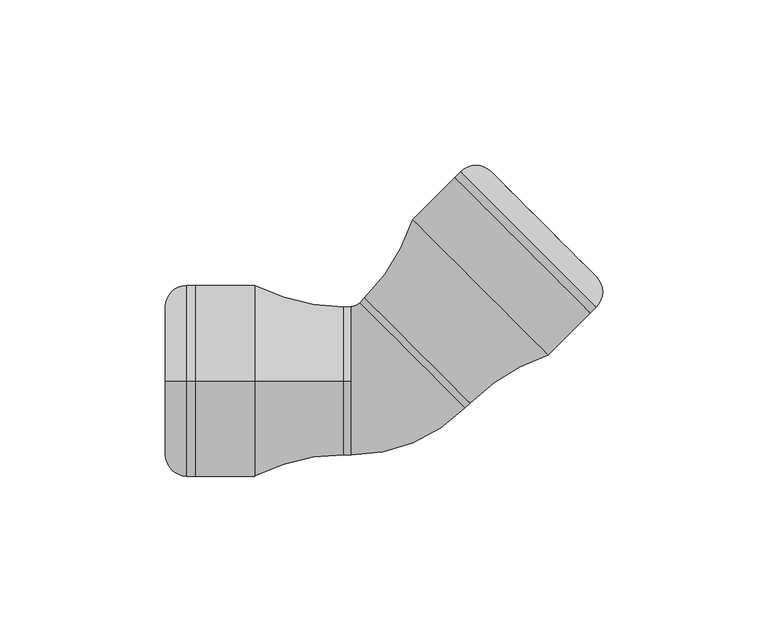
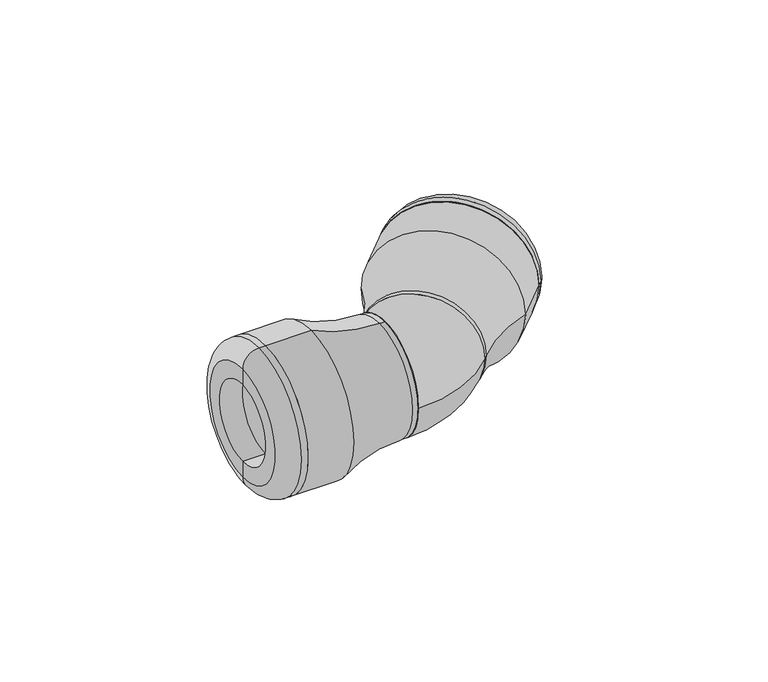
"""IFC4 building model written with IfcOpenShell, lengths in millimetres: pipe fitting geometry, Plumbing_Pipe-Fittings_Plasson_Elbow-45_1006 : Plumbing_Pipe-Fittings_Plasson_Elbow-45_1006."""

from ifc_helpers import new_model, si_unit, point, frame, origin, place, context, project, spatial, polyline, circle_curve, ellipse_curve, trimmed, source, transform, mapped, element, save
from ifc_brep_helpers import plane_surface, cylinder_surface, revolved_surface, advanced_brep


def pipe_fitting_c75a0118(model_context):
    return source(origin(), model_context, "Body", "AdvancedBrep", [
        advanced_brep(
        [(-10.810974, -22.5, 0.0), (-10.810974, 22.5, 0.0), (23.5544156, -8.2653896, 0.0), (-8.2653896, 23.5544156, 0.0)],
        [
            (0, 1, circle_curve(frame((-10.810974, 0.0, 0.0), z_axis=(-1.0, 0.0, 0.0), x_axis=(0.0, 1.0, 0.0)), 22.5)),
            (1, 0, circle_curve(frame((-10.810974, 0.0, 0.0), z_axis=(-1.0, 0.0, 0.0), x_axis=(0.0, 1.0, 0.0)), 22.5)),
            (2, 3, circle_curve(frame((7.644513, 7.644513, 0.0), z_axis=(0.7071067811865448, 0.7071067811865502, 0.0), x_axis=(-0.7071067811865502, 0.7071067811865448, 0.0)), 22.5)),
            (3, 2, circle_curve(frame((7.644513, 7.644513, 0.0), z_axis=(0.7071067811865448, 0.7071067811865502, 0.0), x_axis=(-0.7071067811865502, 0.7071067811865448, 0.0)), 22.5)),
            (3, 1, circle_curve(frame((-10.810974, 26.1, 0.0), z_axis=(0.0, 0.0, -1.0), x_axis=(0.0, -1.0, 0.0)), 3.6)),
            (0, 2, circle_curve(frame((-10.810974, 26.1, 0.0), z_axis=(0.0, 0.0, 1.0), x_axis=(0.0, -1.0, 0.0)), 48.6)),
        ],
        [
            plane_surface(frame((-10.810974, 0.0, 0.0), z_axis=(-1.0, 0.0, 0.0), x_axis=(0.0, 0.0, 1.0))),
            plane_surface(frame((7.644513, 7.644513, 0.0), z_axis=(0.7071067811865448, 0.7071067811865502, 0.0), x_axis=(0.0, 0.0, 1.0))),
            revolved_surface(trimmed(ellipse_curve(frame((-10.810974, 0.0, 0.0), z_axis=(-1.0, 0.0, 0.0), x_axis=(0.0, 1.0, 0.0)), 22.5, 22.5), [point((-10.810974, -22.5, 0.0))], [point((-10.810974, 22.5, 0.0))], True, "CARTESIAN"), (-10.810974, 26.1, 0.0), (0.0, 0.0, 1.0)),
            revolved_surface(trimmed(ellipse_curve(frame((-10.810974, 0.0, 0.0), z_axis=(-1.0, 0.0, 0.0), x_axis=(0.0, 1.0, 0.0)), 22.5, 22.5), [point((-10.810974, 22.5, 0.0))], [point((-10.810974, -22.5, 0.0))], True, "CARTESIAN"), (-10.810974, 26.1, 0.0), (0.0, 0.0, 1.0)),
        ],
        [
            (0, [[1, 2]]),
            (1, [[3, 4]]),
            (2, [[5, -1, 6, -4]]),
            (3, [[-6, -2, -5, -3]]),
        ],
    ),
        advanced_brep(
        [(63.2860569, 31.4662518, 0.0), (31.4662518, 63.2860569, 0.0), (36.0624458, 58.6898628, 0.0), (58.6898628, 36.0624458, 0.0), (63.2860569, 22.2738636, 0.0), (22.2738636, 63.2860569, 0.0), (61.51829, 20.5060967, 0.0), (20.5060967, 61.51829, 0.0), (52.3259018, 29.6984848, 0.0), (29.6984848, 52.3259018, 0.0)],
        [
            (0, 1, circle_curve(frame((47.3761543, 47.3761543, 0.0), z_axis=(0.7071067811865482, 0.7071067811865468, 0.0), x_axis=(-0.7071067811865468, 0.7071067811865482, 0.0)), 22.5)),
            (1, 2),
            (2, 3, circle_curve(frame((47.3761543, 47.3761543, 0.0), z_axis=(-0.7071067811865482, -0.7071067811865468, 0.0), x_axis=(-0.7071067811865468, 0.7071067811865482, 0.0)), 16.0)),
            (3, 0),
            (1, 0, circle_curve(frame((47.3761543, 47.3761543, 0.0), z_axis=(0.7071067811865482, 0.7071067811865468, 0.0), x_axis=(-0.7071067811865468, 0.7071067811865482, 0.0)), 22.5)),
            (3, 2, circle_curve(frame((47.3761543, 47.3761543, 0.0), z_axis=(-0.7071067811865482, -0.7071067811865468, 0.0), x_axis=(-0.7071067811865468, 0.7071067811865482, 0.0)), 16.0)),
            (4, 5, circle_curve(frame((42.7799603, 42.7799603, 0.0), z_axis=(0.7071067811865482, 0.7071067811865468, 0.0), x_axis=(-0.7071067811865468, 0.7071067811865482, 0.0)), 29.0)),
            (5, 1, circle_curve(frame((26.8700577, 58.6898628, 0.0), z_axis=(0.0, 0.0, -1.0), x_axis=(0.7071067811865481, 0.7071067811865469, 0.0)), 6.5)),
            (0, 4, circle_curve(frame((58.6898628, 26.8700577, 0.0), z_axis=(0.0, 0.0, -1.0), x_axis=(0.7071067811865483, 0.7071067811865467, 0.0)), 6.5)),
            (5, 4, circle_curve(frame((42.7799603, 42.7799603, 0.0), z_axis=(0.7071067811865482, 0.7071067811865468, 0.0), x_axis=(-0.7071067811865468, 0.7071067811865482, 0.0)), 29.0)),
            (6, 7, circle_curve(frame((41.0121933, 41.0121933, 0.0), z_axis=(0.7071067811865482, 0.7071067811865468, 0.0), x_axis=(-0.7071067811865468, 0.7071067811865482, 0.0)), 29.0)),
            (7, 5),
            (4, 6),
            (7, 6, circle_curve(frame((41.0121933, 41.0121933, 0.0), z_axis=(0.7071067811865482, 0.7071067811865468, 0.0), x_axis=(-0.7071067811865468, 0.7071067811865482, 0.0)), 29.0)),
            (8, 9, circle_curve(frame((41.0121933, 41.0121933, 0.0), z_axis=(0.7071067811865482, 0.7071067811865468, 0.0), x_axis=(-0.7071067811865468, 0.7071067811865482, 0.0)), 16.0)),
            (9, 7),
            (6, 8),
            (9, 8, circle_curve(frame((41.0121933, 41.0121933, 0.0), z_axis=(0.7071067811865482, 0.7071067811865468, 0.0), x_axis=(-0.7071067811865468, 0.7071067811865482, 0.0)), 16.0)),
            (2, 9),
            (8, 3),
        ],
        [
            plane_surface(frame((47.3761543, 47.3761543, 0.0), z_axis=(0.7071067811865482, 0.7071067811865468, 0.0), x_axis=(-0.7071067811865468, 0.7071067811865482, 0.0))),
            revolved_surface(trimmed(ellipse_curve(frame((26.8700577, 58.6898628, 0.0), z_axis=(0.0, 0.0, 1.0), x_axis=(0.7071067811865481, 0.7071067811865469, 0.0)), 6.5, 6.5), [point((31.4662518, 63.2860569, 0.0))], [point((22.2738636, 63.2860569, 0.0))], True, "CARTESIAN"), (24.2227391, 24.2227391, 0.0), (-0.7071067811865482, -0.7071067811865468, 0.0)),
            cylinder_surface(frame((24.2227391, 24.2227391, 0.0), z_axis=(-0.7071067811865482, -0.7071067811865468, 0.0), x_axis=(-0.7071067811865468, 0.7071067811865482, 0.0)), 29.0),
            plane_surface(frame((41.0121933, 41.0121933, 0.0), z_axis=(-0.7071067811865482, -0.7071067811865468, 0.0), x_axis=(-0.7071067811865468, 0.7071067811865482, 0.0))),
            revolved_surface(polyline([(29.698484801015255, 52.325901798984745, 0.0), (36.062445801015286, 58.68986279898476, 0.0)]), (24.2227391, 24.2227391, 0.0), (-0.7071067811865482, -0.7071067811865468, 0.0)),
        ],
        [
            (0, [[1, 2, 3, 4]]),
            (0, [[5, -4, 6, -2]]),
            (1, [[7, 8, -1, 9]]),
            (1, [[10, -9, -5, -8]]),
            (2, [[11, 12, -7, 13]]),
            (2, [[14, -13, -10, -12]]),
            (3, [[15, 16, -11, 17]]),
            (3, [[18, -17, -14, -16]]),
            (4, [[-3, 19, -15, 20]]),
            (4, [[-6, -20, -18, -19]]),
        ],
    ),
        advanced_brep(
        [(48.7903679, 7.7781746, 0.0), (7.7781746, 48.7903679, 0.0), (20.5060967, 61.51829, 0.0), (61.51829, 20.5060967, 0.0), (20.5060967, -2.1213203, 0.0), (-2.1213203, 20.5060967, 0.0), (9.1923882, 9.1923882, 0.0), (52.3259018, 29.6984848, 0.0), (29.6984848, 52.3259018, 0.0), (25.1022907, -6.7175144, 0.0), (-6.7175144, 25.1022907, 0.0), (23.5544156, -8.2653896, 0.0), (-8.2653896, 23.5544156, 0.0), (7.644513, 7.644513, 0.0)],
        [
            (0, 1, circle_curve(frame((28.2842712, 28.2842712, 0.0), z_axis=(0.7071067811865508, 0.7071067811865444, 0.0), x_axis=(-0.7071067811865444, 0.7071067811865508, 0.0)), 29.0)),
            (1, 2),
            (2, 3, circle_curve(frame((41.0121933, 41.0121933, 0.0), z_axis=(-0.7071067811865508, -0.7071067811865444, 0.0), x_axis=(-0.7071067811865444, 0.7071067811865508, 0.0)), 29.0)),
            (3, 0),
            (1, 0, circle_curve(frame((28.2842712, 28.2842712, 0.0), z_axis=(0.7071067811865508, 0.7071067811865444, 0.0), x_axis=(-0.7071067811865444, 0.7071067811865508, 0.0)), 29.0)),
            (3, 2, circle_curve(frame((41.0121933, 41.0121933, 0.0), z_axis=(-0.7071067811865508, -0.7071067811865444, 0.0), x_axis=(-0.7071067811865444, 0.7071067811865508, 0.0)), 29.0)),
            (4, 5, circle_curve(frame((9.1923882, 9.1923882, 0.0), z_axis=(0.7071067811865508, 0.7071067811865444, 0.0), x_axis=(-0.7071067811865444, 0.7071067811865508, 0.0)), 16.0)),
            (5, 6),
            (6, 4),
            (5, 4, circle_curve(frame((9.1923882, 9.1923882, 0.0), z_axis=(0.7071067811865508, 0.7071067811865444, 0.0), x_axis=(-0.7071067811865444, 0.7071067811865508, 0.0)), 16.0)),
            (7, 8, circle_curve(frame((41.0121933, 41.0121933, 0.0), z_axis=(0.7071067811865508, 0.7071067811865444, 0.0), x_axis=(-0.7071067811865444, 0.7071067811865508, 0.0)), 16.0)),
            (8, 5),
            (4, 7),
            (8, 7, circle_curve(frame((41.0121933, 41.0121933, 0.0), z_axis=(0.7071067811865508, 0.7071067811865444, 0.0), x_axis=(-0.7071067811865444, 0.7071067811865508, 0.0)), 16.0)),
            (2, 8),
            (7, 3),
            (9, 10, circle_curve(frame((9.1923882, 9.1923882, 0.0), z_axis=(0.7071067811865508, 0.7071067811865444, 0.0), x_axis=(-0.7071067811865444, 0.7071067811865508, 0.0)), 22.5)),
            (10, 1, circle_curve(frame((-48.667984, 67.0527603, 0.0), z_axis=(0.0, 0.0, 1.0), x_axis=(0.7071067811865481, 0.707106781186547, 0.0)), 59.3269231)),
            (0, 9, circle_curve(frame((67.0527603, -48.667984, 0.0), z_axis=(0.0, 0.0, 1.0), x_axis=(0.7071067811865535, 0.7071067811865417, 0.0)), 59.3269231)),
            (10, 9, circle_curve(frame((9.1923882, 9.1923882, 0.0), z_axis=(0.7071067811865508, 0.7071067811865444, 0.0), x_axis=(-0.7071067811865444, 0.7071067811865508, 0.0)), 22.5)),
            (11, 12, circle_curve(frame((7.644513, 7.644513, 0.0), z_axis=(0.7071067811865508, 0.7071067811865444, 0.0), x_axis=(-0.7071067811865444, 0.7071067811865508, 0.0)), 22.5)),
            (12, 10),
            (9, 11),
            (12, 11, circle_curve(frame((7.644513, 7.644513, 0.0), z_axis=(0.7071067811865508, 0.7071067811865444, 0.0), x_axis=(-0.7071067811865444, 0.7071067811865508, 0.0)), 22.5)),
            (13, 12),
            (11, 13),
        ],
        [
            cylinder_surface(frame((25.6775441, 25.6775441, 0.0), z_axis=(-0.7071067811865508, -0.7071067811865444, 0.0), x_axis=(-0.7071067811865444, 0.7071067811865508, 0.0)), 29.0),
            plane_surface(frame((9.1923882, 9.1923882, 0.0), z_axis=(0.7071067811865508, 0.7071067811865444, 0.0), x_axis=(-0.7071067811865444, 0.7071067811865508, 0.0))),
            revolved_surface(polyline([(-2.1213202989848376, 20.506096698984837, 0.0), (29.69848480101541, 52.325901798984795, 0.0)]), (25.6775441, 25.6775441, 0.0), (-0.7071067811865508, -0.7071067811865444, 0.0)),
            plane_surface(frame((41.0121933, 41.0121933, 0.0), z_axis=(0.7071067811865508, 0.7071067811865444, 0.0), x_axis=(-0.7071067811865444, 0.7071067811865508, 0.0))),
            revolved_surface(trimmed(ellipse_curve(frame((-48.667984, 67.0527603, 0.0), z_axis=(0.0, 0.0, -1.0), x_axis=(0.7071067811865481, 0.707106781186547, 0.0)), 59.3269231, 59.3269231), [point((7.7781746, 48.7903679, 0.0))], [point((-6.7175144, 25.1022907, 0.0))], True, "CARTESIAN"), (25.6775441, 25.6775441, 0.0), (-0.7071067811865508, -0.7071067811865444, 0.0)),
            cylinder_surface(frame((25.6775441, 25.6775441, 0.0), z_axis=(-0.7071067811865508, -0.7071067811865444, 0.0), x_axis=(-0.7071067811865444, 0.7071067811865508, 0.0)), 22.5),
            plane_surface(frame((7.644513, 7.644513, 0.0), z_axis=(-0.7071067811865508, -0.7071067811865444, 0.0), x_axis=(-0.7071067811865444, 0.7071067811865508, 0.0))),
        ],
        [
            (0, [[1, 2, 3, 4]]),
            (0, [[5, -4, 6, -2]]),
            (1, [[7, 8, 9]]),
            (1, [[10, -9, -8]]),
            (2, [[11, 12, -7, 13]]),
            (2, [[14, -13, -10, -12]]),
            (3, [[-3, 15, -11, 16]]),
            (3, [[-6, -16, -14, -15]]),
            (4, [[17, 18, -1, 19]]),
            (4, [[20, -19, -5, -18]]),
            (5, [[21, 22, -17, 23]]),
            (5, [[24, -23, -20, -22]]),
            (6, [[25, -21, 26]]),
            (6, [[-26, -24, -25]]),
        ],
    ),
        advanced_brep(
        [(-58.0, 0.0, -29.0), (-58.0, 0.0, 29.0), (-58.0, 0.0, 16.0), (-58.0, 0.0, -16.0), (-60.5, 0.0, -29.0), (-60.5, 0.0, 29.0), (-67.0, 0.0, -22.5), (-67.0, 0.0, 22.5), (-67.0, 0.0, -16.0), (-67.0, 0.0, 16.0)],
        [
            (0, 1, circle_curve(frame((-58.0, 0.0, 0.0), z_axis=(1.0, 0.0, 0.0), x_axis=(0.0, 0.0, 1.0)), 29.0)),
            (1, 2),
            (2, 3, circle_curve(frame((-58.0, 0.0, 0.0), z_axis=(-1.0, 0.0, 0.0), x_axis=(0.0, 0.0, 1.0)), 16.0)),
            (3, 0),
            (1, 0, circle_curve(frame((-58.0, 0.0, 0.0), z_axis=(1.0, 0.0, 0.0), x_axis=(0.0, 0.0, 1.0)), 29.0)),
            (3, 2, circle_curve(frame((-58.0, 0.0, 0.0), z_axis=(-1.0, 0.0, 0.0), x_axis=(0.0, 0.0, 1.0)), 16.0)),
            (4, 5, circle_curve(frame((-60.5, 0.0, 0.0), z_axis=(1.0, 0.0, 0.0), x_axis=(0.0, 0.0, 1.0)), 29.0)),
            (5, 1),
            (0, 4),
            (5, 4, circle_curve(frame((-60.5, 0.0, 0.0), z_axis=(1.0, 0.0, 0.0), x_axis=(0.0, 0.0, 1.0)), 29.0)),
            (6, 7, circle_curve(frame((-67.0, 0.0, 0.0), z_axis=(1.0, 0.0, 0.0), x_axis=(0.0, 0.0, 1.0)), 22.5)),
            (7, 5, circle_curve(frame((-60.5, 0.0, 22.5), z_axis=(0.0, 1.0, 0.0), x_axis=(1.0, 0.0, 0.0)), 6.5)),
            (4, 6, circle_curve(frame((-60.5, 0.0, -22.5), z_axis=(0.0, 1.0, 0.0), x_axis=(1.0, 0.0, 0.0)), 6.5)),
            (7, 6, circle_curve(frame((-67.0, 0.0, 0.0), z_axis=(1.0, 0.0, 0.0), x_axis=(0.0, 0.0, 1.0)), 22.5)),
            (8, 9, circle_curve(frame((-67.0, 0.0, 0.0), z_axis=(1.0, 0.0, 0.0), x_axis=(0.0, 0.0, 1.0)), 16.0)),
            (9, 7),
            (6, 8),
            (9, 8, circle_curve(frame((-67.0, 0.0, 0.0), z_axis=(1.0, 0.0, 0.0), x_axis=(0.0, 0.0, 1.0)), 16.0)),
            (2, 9),
            (8, 3),
        ],
        [
            plane_surface(frame((-58.0, 0.0, 0.0), z_axis=(1.0, 0.0, 0.0), x_axis=(0.0, 0.0, 1.0))),
            cylinder_surface(frame((-72.0, 0.0, 0.0), z_axis=(-1.0, 0.0, 0.0), x_axis=(0.0, 0.0, 1.0)), 29.0),
            revolved_surface(trimmed(ellipse_curve(frame((-60.5, 0.0, 22.5), z_axis=(0.0, -1.0, 0.0), x_axis=(1.0, 0.0, 0.0)), 6.5, 6.5), [point((-60.5, 0.0, 29.0))], [point((-67.0, 0.0, 22.5))], True, "CARTESIAN"), (-72.0, 0.0, 0.0), (-1.0, 0.0, 0.0)),
            plane_surface(frame((-67.0, 0.0, 0.0), z_axis=(-1.0, 0.0, 0.0), x_axis=(0.0, 0.0, 1.0))),
            revolved_surface(polyline([(-67.0, 0.0, 16.0), (-58.0, 0.0, 16.0)]), (-72.0, 0.0, 0.0), (-1.0, 0.0, 0.0)),
        ],
        [
            (0, [[1, 2, 3, 4]]),
            (0, [[5, -4, 6, -2]]),
            (1, [[7, 8, -1, 9]]),
            (1, [[10, -9, -5, -8]]),
            (2, [[11, 12, -7, 13]]),
            (2, [[14, -13, -10, -12]]),
            (3, [[15, 16, -11, 17]]),
            (3, [[18, -17, -14, -16]]),
            (4, [[-3, 19, -15, 20]]),
            (4, [[-6, -20, -18, -19]]),
        ],
    ),
        advanced_brep(
        [(-58.0, 0.0, -16.0), (-58.0, 0.0, 16.0), (-58.0, 0.0, 29.0), (-58.0, 0.0, -29.0), (-13.0, 0.0, -16.0), (-13.0, 0.0, 16.0), (-13.0, 0.0, 0.0), (-40.0, 0.0, 29.0), (-40.0, 0.0, -29.0), (-10.810974, 0.0, -22.5), (-10.810974, 0.0, 22.5), (-10.810974, 0.0, 0.0), (-13.0, 0.0, -22.5), (-13.0, 0.0, 22.5)],
        [
            (0, 1, circle_curve(frame((-58.0, 0.0, 0.0), z_axis=(1.0, 0.0, 0.0), x_axis=(0.0, 0.0, 1.0)), 16.0)),
            (1, 2),
            (2, 3, circle_curve(frame((-58.0, 0.0, 0.0), z_axis=(-1.0, 0.0, 0.0), x_axis=(0.0, 0.0, 1.0)), 29.0)),
            (3, 0),
            (1, 0, circle_curve(frame((-58.0, 0.0, 0.0), z_axis=(1.0, 0.0, 0.0), x_axis=(0.0, 0.0, 1.0)), 16.0)),
            (3, 2, circle_curve(frame((-58.0, 0.0, 0.0), z_axis=(-1.0, 0.0, 0.0), x_axis=(0.0, 0.0, 1.0)), 29.0)),
            (4, 5, circle_curve(frame((-13.0, 0.0, 0.0), z_axis=(1.0, 0.0, 0.0), x_axis=(0.0, 0.0, 1.0)), 16.0)),
            (5, 1),
            (0, 4),
            (5, 4, circle_curve(frame((-13.0, 0.0, 0.0), z_axis=(1.0, 0.0, 0.0), x_axis=(0.0, 0.0, 1.0)), 16.0)),
            (6, 5),
            (4, 6),
            (2, 7),
            (7, 8, circle_curve(frame((-40.0, 0.0, 0.0), z_axis=(-1.0, 0.0, 0.0), x_axis=(0.0, 0.0, 1.0)), 29.0)),
            (8, 3),
            (8, 7, circle_curve(frame((-40.0, 0.0, 0.0), z_axis=(-1.0, 0.0, 0.0), x_axis=(0.0, 0.0, 1.0)), 29.0)),
            (9, 10, circle_curve(frame((-10.810974, 0.0, 0.0), z_axis=(1.0, 0.0, 0.0), x_axis=(0.0, 0.0, 1.0)), 22.5)),
            (10, 11),
            (11, 9),
            (10, 9, circle_curve(frame((-10.810974, 0.0, 0.0), z_axis=(1.0, 0.0, 0.0), x_axis=(0.0, 0.0, 1.0)), 22.5)),
            (12, 13, circle_curve(frame((-13.0, 0.0, 0.0), z_axis=(1.0, 0.0, 0.0), x_axis=(0.0, 0.0, 1.0)), 22.5)),
            (13, 10),
            (9, 12),
            (13, 12, circle_curve(frame((-13.0, 0.0, 0.0), z_axis=(1.0, 0.0, 0.0), x_axis=(0.0, 0.0, 1.0)), 22.5)),
            (7, 13, circle_curve(frame((-13.0, 0.0, 81.8269231), z_axis=(0.0, -1.0, 0.0), x_axis=(1.0, 0.0, 0.0)), 59.3269231)),
            (12, 8, circle_curve(frame((-13.0, 0.0, -81.8269231), z_axis=(0.0, -1.0, 0.0), x_axis=(1.0, 0.0, 0.0)), 59.3269231)),
        ],
        [
            plane_surface(frame((-58.0, 0.0, 0.0), z_axis=(-1.0, 0.0, 0.0), x_axis=(0.0, 0.0, 1.0))),
            revolved_surface(polyline([(-58.0, 0.0, 16.0), (-13.0, 0.0, 16.0)]), (-58.0, 0.0, 0.0), (-1.0, 0.0, 0.0)),
            plane_surface(frame((-13.0, 0.0, 0.0), z_axis=(-1.0, 0.0, 0.0), x_axis=(0.0, 0.0, 1.0))),
            cylinder_surface(frame((-58.0, 0.0, 0.0), z_axis=(-1.0, 0.0, 0.0), x_axis=(0.0, 0.0, 1.0)), 29.0),
            plane_surface(frame((-10.810974, 0.0, 0.0), z_axis=(1.0, 0.0, 0.0), x_axis=(0.0, 0.0, 1.0))),
            cylinder_surface(frame((-58.0, 0.0, 0.0), z_axis=(-1.0, 0.0, 0.0), x_axis=(0.0, 0.0, 1.0)), 22.5),
            revolved_surface(trimmed(ellipse_curve(frame((-13.0, 0.0, 81.8269231), z_axis=(0.0, 1.0, 0.0), x_axis=(1.0, 0.0, 0.0)), 59.3269231, 59.3269231), [point((-13.0, 0.0, 22.5))], [point((-40.0, 0.0, 29.0))], True, "CARTESIAN"), (-58.0, 0.0, 0.0), (-1.0, 0.0, 0.0)),
        ],
        [
            (0, [[1, 2, 3, 4]]),
            (0, [[5, -4, 6, -2]]),
            (1, [[7, 8, -1, 9]]),
            (1, [[10, -9, -5, -8]]),
            (2, [[11, -7, 12]]),
            (2, [[-12, -10, -11]]),
            (3, [[-3, 13, 14, 15]]),
            (3, [[-6, -15, 16, -13]]),
            (4, [[17, 18, 19]]),
            (4, [[20, -19, -18]]),
            (5, [[21, 22, -17, 23]]),
            (5, [[24, -23, -20, -22]]),
            (6, [[-14, 25, -21, 26]]),
            (6, [[-16, -26, -24, -25]]),
        ],
    ),
    ])


if __name__ == "__main__":
    model = new_model("IFC4")
    model_context = context("Model", 3, world=origin())
    ifc_project = project(units=[si_unit("LENGTHUNIT", "METRE", prefix="MILLI")], contexts=[model_context])
    site = spatial("IfcSite", under=ifc_project)
    building = spatial("IfcBuilding", under=site)
    placement = place(None, origin())
    pipe_fitting_shape = pipe_fitting_c75a0118(model_context)
    element("IfcPipeFitting", 1, ObjectType="Plumbing_Pipe-Fittings_Plasson_Elbow-45_1006 : Plumbing_Pipe-Fittings_Plasson_Elbow-45_1006", at=placement, inside=building, context=model_context, shape_type="MappedRepresentation", body=[
        mapped(pipe_fitting_shape, transform((0.0, 0.0, 0.0), x_axis=(1.0, 0.0, 0.0), y_axis=(0.0, 1.0, 0.0), z_axis=(0.0, 0.0, 1.0))),
    ])
    save(model, "model.ifc")
